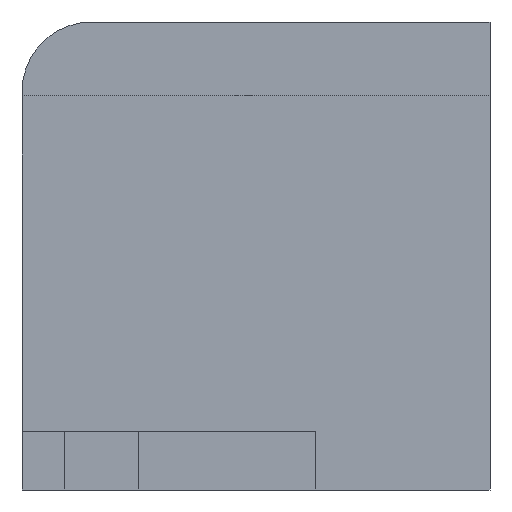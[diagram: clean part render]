
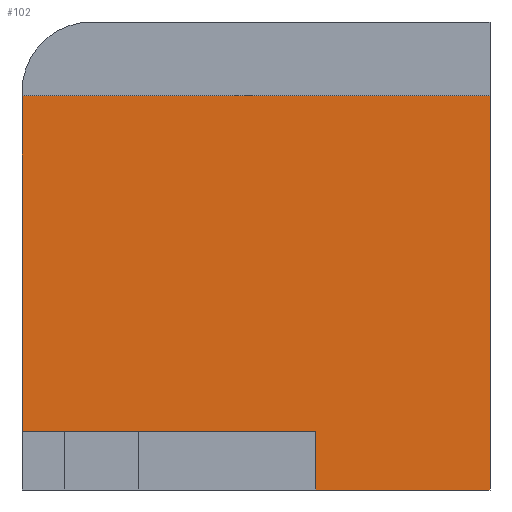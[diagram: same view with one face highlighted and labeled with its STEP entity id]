
A CAD part, front view. The second image highlights one B-rep face of the part: STEP entity #102.
In plain terms, the highlighted planar face has unit normal (0, -1, 0).
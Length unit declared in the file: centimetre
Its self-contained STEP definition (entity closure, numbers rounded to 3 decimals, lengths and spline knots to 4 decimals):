
#2 = EDGE_LOOP ( 'NONE', ( #632, #646, #717, #805, #422, #251 ) ) ;
#28 = CARTESIAN_POINT ( 'NONE',  ( 1000., 0., 0. ) ) ;
#53 = VERTEX_POINT ( 'NONE', #225 ) ;
#62 = CARTESIAN_POINT ( 'NONE',  ( 0., 0., 124.5711 ) ) ;
#98 = VERTEX_POINT ( 'NONE', #28 ) ;
#101 = DIRECTION ( 'NONE',  ( 1., 0., 0. ) ) ;
#102 = ADVANCED_FACE ( 'NONE', ( #933 ), #429, .F. ) ;
#103 = VECTOR ( 'NONE', #101, 100. ) ;
#115 = DIRECTION ( 'NONE',  ( 0., 1., 0. ) ) ;
#135 = DIRECTION ( 'NONE',  ( -1., 0., 0. ) ) ;
#152 = VERTEX_POINT ( 'NONE', #353 ) ;
#165 = VERTEX_POINT ( 'NONE', #844 ) ;
#167 = LINE ( 'NONE', #663, #273 ) ;
#170 = VECTOR ( 'NONE', #419, 100. ) ;
#176 = EDGE_CURVE ( 'NONE', #165, #98, #748, .T. ) ;
#225 = CARTESIAN_POINT ( 'NONE',  ( 627.4666, 0., 124.5711 ) ) ;
#251 = ORIENTED_EDGE ( 'NONE', *, *, #176, .T. ) ;
#273 = VECTOR ( 'NONE', #829, 100. ) ;
#291 = CARTESIAN_POINT ( 'NONE',  ( 1000., 0., 842.196 ) ) ;
#329 = LINE ( 'NONE', #828, #912 ) ;
#349 = EDGE_CURVE ( 'NONE', #152, #546, #167, .T. ) ;
#353 = CARTESIAN_POINT ( 'NONE',  ( 0., 0., 842.196 ) ) ;
#361 = VECTOR ( 'NONE', #800, 100. ) ;
#419 = DIRECTION ( 'NONE',  ( 0., 0., -1. ) ) ;
#422 = ORIENTED_EDGE ( 'NONE', *, *, #989, .F. ) ;
#429 = PLANE ( 'NONE',  #895 ) ;
#472 = LINE ( 'NONE', #813, #361 ) ;
#546 = VERTEX_POINT ( 'NONE', #291 ) ;
#621 = EDGE_CURVE ( 'NONE', #152, #816, #472, .T. ) ;
#632 = ORIENTED_EDGE ( 'NONE', *, *, #1027, .F. ) ;
#646 = ORIENTED_EDGE ( 'NONE', *, *, #349, .F. ) ;
#658 = LINE ( 'NONE', #741, #170 ) ;
#663 = CARTESIAN_POINT ( 'NONE',  ( 0., 0., 842.196 ) ) ;
#717 = ORIENTED_EDGE ( 'NONE', *, *, #621, .T. ) ;
#741 = CARTESIAN_POINT ( 'NONE',  ( 1000., 0., 1000. ) ) ;
#748 = LINE ( 'NONE', #1021, #103 ) ;
#755 = DIRECTION ( 'NONE',  ( 0., 0., 1. ) ) ;
#793 = EDGE_CURVE ( 'NONE', #53, #816, #974, .T. ) ;
#800 = DIRECTION ( 'NONE',  ( 0., 0., -1. ) ) ;
#805 = ORIENTED_EDGE ( 'NONE', *, *, #793, .F. ) ;
#813 = CARTESIAN_POINT ( 'NONE',  ( 0., 0., 1000. ) ) ;
#816 = VERTEX_POINT ( 'NONE', #62 ) ;
#828 = CARTESIAN_POINT ( 'NONE',  ( 627.4666, 0., 0. ) ) ;
#829 = DIRECTION ( 'NONE',  ( 1., 0., 0. ) ) ;
#844 = CARTESIAN_POINT ( 'NONE',  ( 627.4666, 0., 0. ) ) ;
#884 = CARTESIAN_POINT ( 'NONE',  ( 627.4666, 0., 124.5711 ) ) ;
#895 = AXIS2_PLACEMENT_3D ( 'NONE', #926, #115, #755 ) ;
#912 = VECTOR ( 'NONE', #987, 100. ) ;
#926 = CARTESIAN_POINT ( 'NONE',  ( 0., 0., 1000. ) ) ;
#933 = FACE_OUTER_BOUND ( 'NONE', #2, .T. ) ;
#974 = LINE ( 'NONE', #884, #1056 ) ;
#987 = DIRECTION ( 'NONE',  ( 0., 0., 1. ) ) ;
#989 = EDGE_CURVE ( 'NONE', #165, #53, #329, .T. ) ;
#1021 = CARTESIAN_POINT ( 'NONE',  ( 0., 0., 0. ) ) ;
#1027 = EDGE_CURVE ( 'NONE', #546, #98, #658, .T. ) ;
#1056 = VECTOR ( 'NONE', #135, 100. ) ;
